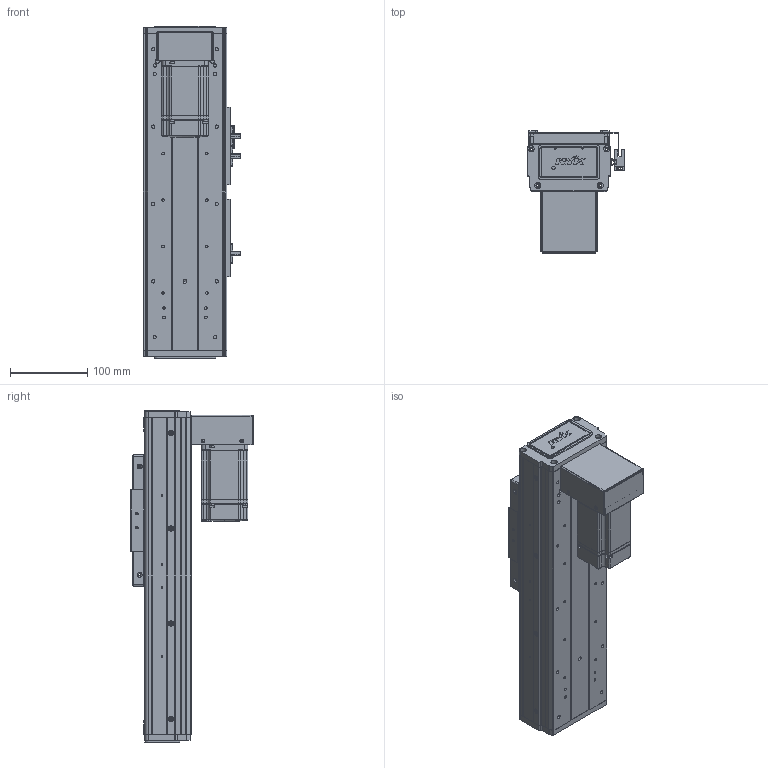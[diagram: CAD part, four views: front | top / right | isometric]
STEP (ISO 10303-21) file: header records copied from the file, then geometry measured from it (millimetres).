
FILE_DESCRIPTION (( 'STEP AP203' ), '1' );
FILE_NAME ('RY100FS-L1620-300-BK(15双轨).SLDASM_150.step', '2021-03-02T07:33:21', ( '盈信电脑' ), ( '东莞市道滘镇水果街19号' ), 'SwSTEP 2.0', 'SolidWorks 2012', '' );
FILE_SCHEMA (( 'CONFIG_CONTROL_DESIGN' ));
Length unit declared in the file: millimetre
Products named in the file (21): 1; RY100FS-L1620-300-BK(15邧寢).SLDASM_150; 蚥薯蝶紫輸; RY100FS-15邧寢狟殏萇儂欶; RY100FS-15双轨下折钢带安装板; 滅袉蝶18-15; RY100FS-15邧寢狟殏萇儂啣; RY100FS-双轨螺母座(16丝杆）; 覜茼ん672; RY100F-詩湍揤踡輸; RY80俋离覜茼え; 672嫖萇羲壽假蚾釱; RY100F-綴裔啣; 棠沺沭; RY100F-詩湍揤踡謫; RY100F-詩湍幗謫粣; RY100F-滅鳥裔啣; RY100FS-300-BK15絳寢倰第菁釱_150; RY100FS-300-BK15邧寢祥凄詩湍_150; RY100FS-双轨铝滑块(上板）; RY100FS-300-BK15絳寢倰第奻裔啣_150
Assembly tree (30 placements, depth 2):
  RY100FS-L1620-300-BK(15邧寢).SLDASM_150
    RY100FS-300-BK15絳寢倰第菁釱_150
    RY100FS-300-BK15絳寢倰第奻裔啣_150  x2
    RY100FS-300-BK15邧寢祥凄詩湍_150
    RY100FS-双轨铝滑块(上板）
    RY100F-滅鳥裔啣
    棠沺沭  x2
    RY100F-詩湍幗謫粣
    RY100F-詩湍揤踡謫  x2
    RY100F-綴裔啣  x2
    672嫖萇羲壽假蚾釱  x2
    RY80俋离覜茼え  x2
    覜茼ん672  x3
    RY100F-詩湍揤踡輸  x2
    RY100FS-双轨螺母座(16丝杆）
    RY100FS-15邧寢狟殏萇儂啣
    RY100FS-15邧寢狟殏萇儂欶
    蚥薯蝶紫輸
    RY100FS-15双轨下折钢带安装板
    滅袉蝶18-15  x2
    1
Bounding box: 126.2 x 158.5 x 429 mm (x, y, z)
Volume: 1512199.8 mm3; surface area: 588713.5 mm2
Topology: 30 solids, 30 shells, 2158 faces, 5829 edges, 3788 vertices
Faces by surface type: plane 1080, cylinder 910, cone 132, bspline 36
Entity records: 56956 total; most frequent: CARTESIAN_POINT 11373, DIRECTION 9070, ORIENTED_EDGE 8898, EDGE_CURVE 4449, AXIS2_PLACEMENT_3D 3169, VERTEX_POINT 2926, LINE 2732, VECTOR 2732
